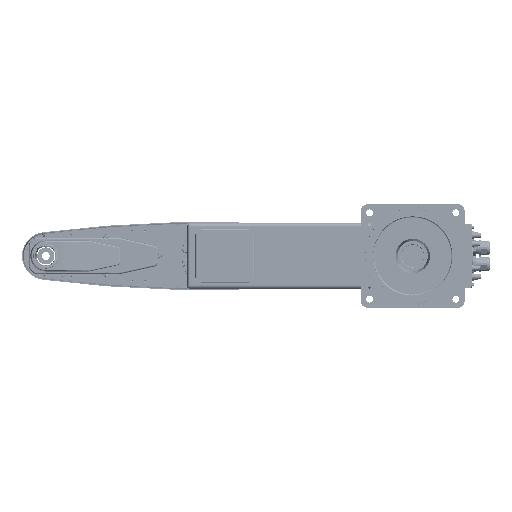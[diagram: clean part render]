
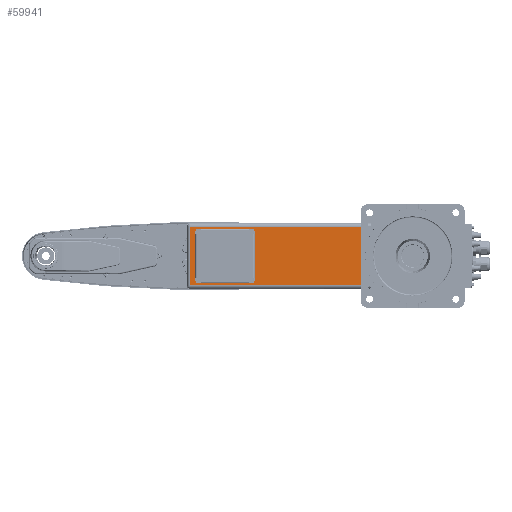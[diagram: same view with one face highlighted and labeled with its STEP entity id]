
A CAD part, front view. The second image highlights one B-rep face of the part: STEP entity #59941.
In plain terms, the highlighted planar face has unit normal (0, -1, 0).
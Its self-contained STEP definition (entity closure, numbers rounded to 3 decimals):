
#41704=DIRECTION('',(0.,0.,-1.));
#41705=VECTOR('',#41704,136.589);
#41706=CARTESIAN_POINT('',(-516.909,202.3,
68.294));
#41707=LINE('',#41706,#41705);
#41708=CARTESIAN_POINT('',(0.,202.3,0.));
#41709=DIRECTION('',(0.,1.,0.));
#41710=DIRECTION('',(-1.,0.,0.));
#41711=AXIS2_PLACEMENT_3D('',#41708,#41709,#41710);
#41713=CARTESIAN_POINT('',(0.,202.3,0.));
#41714=DIRECTION('',(0.,1.,0.));
#41715=DIRECTION('',(-0.219,0.,-0.976));
#41716=AXIS2_PLACEMENT_3D('',#41713,#41714,#41715);
#41718=DIRECTION('',(0.,0.,1.));
#41719=VECTOR('',#41718,47.897);
#41720=CARTESIAN_POINT('',(-79.629,202.3,-23.905));
#41721=LINE('',#41720,#41719);
#41722=DIRECTION('',(0.574,0.,-0.819));
#41723=VECTOR('',#41722,0.819);
#41724=CARTESIAN_POINT('',(-80.099,202.3,24.664));
#41725=LINE('',#41724,#41723);
#41726=DIRECTION('',(-0.94,0.,0.342));
#41727=VECTOR('',#41726,13.155);
#41728=CARTESIAN_POINT('',(-80.099,202.3,24.664));
#41729=LINE('',#41728,#41727);
#41730=DIRECTION('',(0.537,0.,0.844));
#41731=VECTOR('',#41730,9.624);
#41732=CARTESIAN_POINT('',(-97.629,202.3,21.044));
#41733=LINE('',#41732,#41731);
#41734=DIRECTION('',(0.,0.,-1.));
#41735=VECTOR('',#41734,42.);
#41736=CARTESIAN_POINT('',(-97.629,202.3,21.044));
#41737=LINE('',#41736,#41735);
#41738=DIRECTION('',(-0.537,0.,0.844));
#41739=VECTOR('',#41738,9.624);
#41740=CARTESIAN_POINT('',(-92.461,202.3,-29.075));
#41741=LINE('',#41740,#41739);
#41742=DIRECTION('',(0.94,0.,0.342));
#41743=VECTOR('',#41742,13.155);
#41744=CARTESIAN_POINT('',(-92.461,202.3,-29.075));
#41745=LINE('',#41744,#41743);
#41746=DIRECTION('',(-0.574,0.,-0.819));
#41747=VECTOR('',#41746,0.819);
#41748=CARTESIAN_POINT('',(-79.629,202.3,-23.905));
#41749=LINE('',#41748,#41747);
#41750=DIRECTION('',(-1.,0.,0.));
#41751=VECTOR('',#41750,122.);
#41752=CARTESIAN_POINT('',(-374.,202.3,-63.5));
#41753=LINE('',#41752,#41751);
#41754=CARTESIAN_POINT('',(-374.,202.3,-55.5));
#41755=DIRECTION('',(0.,1.,0.));
#41756=DIRECTION('',(1.,0.,0.));
#41757=AXIS2_PLACEMENT_3D('',#41754,#41755,#41756);
#41759=DIRECTION('',(0.,0.,-1.));
#41760=VECTOR('',#41759,111.);
#41761=CARTESIAN_POINT('',(-366.,202.3,55.5));
#41762=LINE('',#41761,#41760);
#41763=CARTESIAN_POINT('',(-374.,202.3,55.5));
#41764=DIRECTION('',(0.,1.,0.));
#41765=DIRECTION('',(0.,0.,1.));
#41766=AXIS2_PLACEMENT_3D('',#41763,#41764,#41765);
#41768=DIRECTION('',(1.,0.,0.));
#41769=VECTOR('',#41768,122.);
#41770=CARTESIAN_POINT('',(-496.,202.3,63.5));
#41771=LINE('',#41770,#41769);
#41772=CARTESIAN_POINT('',(-496.,202.3,55.5));
#41773=DIRECTION('',(0.,1.,0.));
#41774=DIRECTION('',(-1.,0.,0.));
#41775=AXIS2_PLACEMENT_3D('',#41772,#41773,#41774);
#41777=DIRECTION('',(0.,0.,1.));
#41778=VECTOR('',#41777,111.);
#41779=CARTESIAN_POINT('',(-504.,202.3,-55.5));
#41780=LINE('',#41779,#41778);
#41781=CARTESIAN_POINT('',(-496.,202.3,-55.5));
#41782=DIRECTION('',(0.,1.,0.));
#41783=DIRECTION('',(0.,0.,-1.));
#41784=AXIS2_PLACEMENT_3D('',#41781,#41782,#41783);
#41884=DIRECTION('',(1.,0.,0.));
#41885=VECTOR('',#41884,501.551);
#41886=CARTESIAN_POINT('',(-516.909,202.3,
-68.294));
#41887=LINE('',#41886,#41885);
#41995=DIRECTION('',(-1.,0.,0.));
#41996=VECTOR('',#41995,501.551);
#41997=CARTESIAN_POINT('',(-15.358,202.3,68.294));
#41998=LINE('',#41997,#41996);
#42010=CARTESIAN_POINT('',(-516.909,202.3,
68.294));
#52136=CARTESIAN_POINT('',(-70.,202.3,0.));
#52137=CARTESIAN_POINT('',(-15.358,202.3,68.294));
#52138=VERTEX_POINT('',#52136);
#52139=VERTEX_POINT('',#52137);
#52146=CARTESIAN_POINT('',(-15.358,202.3,-68.294));
#52147=VERTEX_POINT('',#52146);
#52308=CARTESIAN_POINT('',(-79.629,202.3,-23.905));
#52309=CARTESIAN_POINT('',(-79.629,202.3,23.993));
#52310=VERTEX_POINT('',#52308);
#52311=VERTEX_POINT('',#52309);
#52312=CARTESIAN_POINT('',(-97.629,202.3,21.044));
#52313=CARTESIAN_POINT('',(-97.629,202.3,-20.956));
#52314=VERTEX_POINT('',#52312);
#52315=VERTEX_POINT('',#52313);
#52316=CARTESIAN_POINT('',(-92.461,202.3,-29.075));
#52317=CARTESIAN_POINT('',(-80.099,202.3,-24.576));
#52318=VERTEX_POINT('',#52316);
#52319=VERTEX_POINT('',#52317);
#52320=CARTESIAN_POINT('',(-80.099,202.3,24.664));
#52321=CARTESIAN_POINT('',(-92.461,202.3,29.163));
#52322=VERTEX_POINT('',#52320);
#52323=VERTEX_POINT('',#52321);
#52797=VERTEX_POINT('',#42010);
#52800=CARTESIAN_POINT('',(-516.909,202.3,
-68.294));
#52801=VERTEX_POINT('',#52800);
#54444=CARTESIAN_POINT('',(-374.,202.3,-63.5));
#54445=CARTESIAN_POINT('',(-496.,202.3,-63.5));
#54446=VERTEX_POINT('',#54444);
#54447=VERTEX_POINT('',#54445);
#54448=CARTESIAN_POINT('',(-504.,202.3,-55.5));
#54449=VERTEX_POINT('',#54448);
#54450=CARTESIAN_POINT('',(-504.,202.3,55.5));
#54451=CARTESIAN_POINT('',(-496.,202.3,63.5));
#54452=VERTEX_POINT('',#54450);
#54453=VERTEX_POINT('',#54451);
#54454=CARTESIAN_POINT('',(-374.,202.3,63.5));
#54455=VERTEX_POINT('',#54454);
#54456=CARTESIAN_POINT('',(-366.,202.3,55.5));
#54457=VERTEX_POINT('',#54456);
#54458=CARTESIAN_POINT('',(-366.,202.3,-55.5));
#54459=VERTEX_POINT('',#54458);
#59889=CARTESIAN_POINT('',(78.,202.3,-76.));
#59890=DIRECTION('',(0.,-1.,0.));
#59891=DIRECTION('',(0.,0.,1.));
#59892=AXIS2_PLACEMENT_3D('',#59889,#59890,#59891);
#59893=PLANE('',#59892);
#59895=ORIENTED_EDGE('',*,*,#59894,.F.);
#59897=ORIENTED_EDGE('',*,*,#59896,.F.);
#59899=ORIENTED_EDGE('',*,*,#59898,.F.);
#59900=ORIENTED_EDGE('',*,*,#59875,.F.);
#59902=ORIENTED_EDGE('',*,*,#59901,.F.);
#59903=EDGE_LOOP('',(#59895,#59897,#59899,#59900,#59902));
#59904=FACE_OUTER_BOUND('',#59903,.F.);
#59906=ORIENTED_EDGE('',*,*,#59905,.T.);
#59908=ORIENTED_EDGE('',*,*,#59907,.F.);
#59910=ORIENTED_EDGE('',*,*,#59909,.T.);
#59912=ORIENTED_EDGE('',*,*,#59911,.F.);
#59914=ORIENTED_EDGE('',*,*,#59913,.T.);
#59916=ORIENTED_EDGE('',*,*,#59915,.F.);
#59918=ORIENTED_EDGE('',*,*,#59917,.T.);
#59920=ORIENTED_EDGE('',*,*,#59919,.F.);
#59921=EDGE_LOOP('',(#59906,#59908,#59910,#59912,#59914,#59916,#59918,#59920));
#59922=FACE_BOUND('',#59921,.F.);
#59924=ORIENTED_EDGE('',*,*,#59923,.F.);
#59926=ORIENTED_EDGE('',*,*,#59925,.F.);
#59928=ORIENTED_EDGE('',*,*,#59927,.F.);
#59930=ORIENTED_EDGE('',*,*,#59929,.F.);
#59932=ORIENTED_EDGE('',*,*,#59931,.F.);
#59934=ORIENTED_EDGE('',*,*,#59933,.F.);
#59936=ORIENTED_EDGE('',*,*,#59935,.F.);
#59938=ORIENTED_EDGE('',*,*,#59937,.F.);
#59939=EDGE_LOOP('',(#59924,#59926,#59928,#59930,#59932,#59934,#59936,#59938));
#59940=FACE_BOUND('',#59939,.F.);
#59941=ADVANCED_FACE('',(#59904,#59922,#59940),#59893,.T.);
#41712=CIRCLE('',#41711,70.);
#41717=CIRCLE('',#41716,70.);
#41758=CIRCLE('',#41757,8.);
#41767=CIRCLE('',#41766,8.);
#41776=CIRCLE('',#41775,8.);
#41785=CIRCLE('',#41784,8.);
#59875=EDGE_CURVE('',#52138,#52139,#41712,.T.);
#59894=EDGE_CURVE('',#52801,#52147,#41887,.T.);
#59896=EDGE_CURVE('',#52797,#52801,#41707,.T.);
#59898=EDGE_CURVE('',#52139,#52797,#41998,.T.);
#59901=EDGE_CURVE('',#52147,#52138,#41717,.T.);
#59905=EDGE_CURVE('',#52310,#52311,#41721,.T.);
#59907=EDGE_CURVE('',#52322,#52311,#41725,.T.);
#59909=EDGE_CURVE('',#52322,#52323,#41729,.T.);
#59911=EDGE_CURVE('',#52314,#52323,#41733,.T.);
#59913=EDGE_CURVE('',#52314,#52315,#41737,.T.);
#59915=EDGE_CURVE('',#52318,#52315,#41741,.T.);
#59917=EDGE_CURVE('',#52318,#52319,#41745,.T.);
#59919=EDGE_CURVE('',#52310,#52319,#41749,.T.);
#59923=EDGE_CURVE('',#54446,#54447,#41753,.T.);
#59925=EDGE_CURVE('',#54459,#54446,#41758,.T.);
#59927=EDGE_CURVE('',#54457,#54459,#41762,.T.);
#59929=EDGE_CURVE('',#54455,#54457,#41767,.T.);
#59931=EDGE_CURVE('',#54453,#54455,#41771,.T.);
#59933=EDGE_CURVE('',#54452,#54453,#41776,.T.);
#59935=EDGE_CURVE('',#54449,#54452,#41780,.T.);
#59937=EDGE_CURVE('',#54447,#54449,#41785,.T.);
